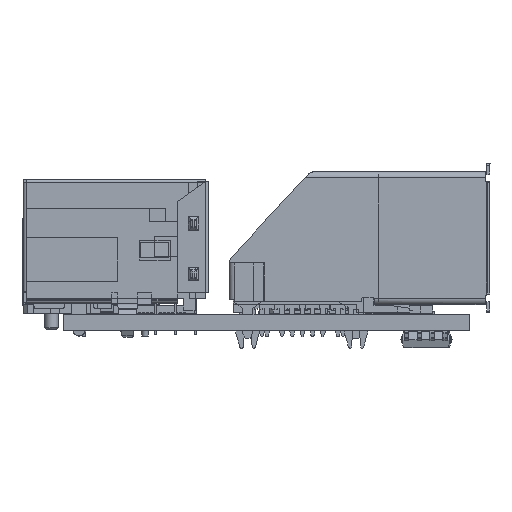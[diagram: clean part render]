
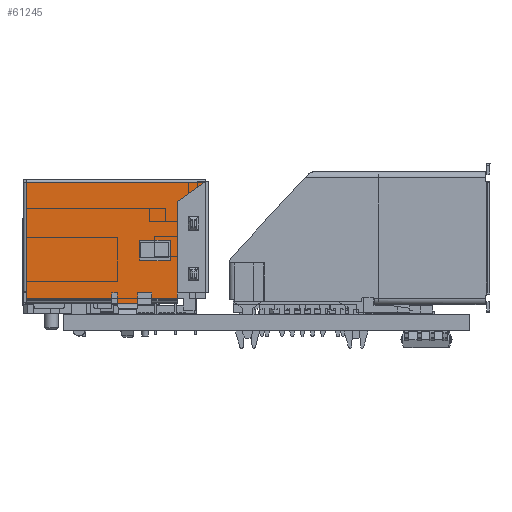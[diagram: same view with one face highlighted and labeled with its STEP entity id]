
A CAD part, left-side view. The second image highlights one B-rep face of the part: STEP entity #61245.
In plain terms, the highlighted planar face has unit normal (-1, 0, 0) as drawn and (0, -1, 0) by its records, which use the part's own axes.
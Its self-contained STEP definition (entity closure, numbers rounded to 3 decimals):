
#3482=FACE_BOUND('',#9944,.T.);
#3483=FACE_BOUND('',#9945,.T.);
#3484=FACE_BOUND('',#9946,.T.);
#6468=FACE_OUTER_BOUND('',#9943,.T.);
#9943=EDGE_LOOP('',(#45773,#45774,#45775,#45776,#45777,#45778,#45779,#45780,
#45781,#45782,#45783,#45784,#45785,#45786,#45787));
#9944=EDGE_LOOP('',(#45788,#45789,#45790,#45791,#45792,#45793));
#9945=EDGE_LOOP('',(#45794,#45795,#45796,#45797));
#9946=EDGE_LOOP('',(#45798,#45799,#45800,#45801));
#14374=LINE('',#92033,#21353);
#14411=LINE('',#92120,#21390);
#14422=LINE('',#92153,#21401);
#14428=LINE('',#92167,#21407);
#14431=LINE('',#92173,#21410);
#14435=LINE('',#92181,#21414);
#14438=LINE('',#92185,#21417);
#14439=LINE('',#92187,#21418);
#14442=LINE('',#92197,#21421);
#14448=LINE('',#92215,#21427);
#14458=LINE('',#92233,#21437);
#14466=LINE('',#92247,#21445);
#14467=LINE('',#92250,#21446);
#14474=LINE('',#92265,#21453);
#14477=LINE('',#92270,#21456);
#14488=LINE('',#92293,#21467);
#14505=LINE('',#92333,#21484);
#14508=LINE('',#92340,#21487);
#14511=LINE('',#92346,#21490);
#14512=LINE('',#92347,#21491);
#14513=LINE('',#92348,#21492);
#14514=LINE('',#92351,#21493);
#14515=LINE('',#92353,#21494);
#14516=LINE('',#92355,#21495);
#14517=LINE('',#92356,#21496);
#14518=LINE('',#92359,#21497);
#14519=LINE('',#92361,#21498);
#14520=LINE('',#92363,#21499);
#14521=LINE('',#92364,#21500);
#21353=VECTOR('',#73220,1.);
#21390=VECTOR('',#73305,1.);
#21401=VECTOR('',#73334,1.);
#21407=VECTOR('',#73350,1.);
#21410=VECTOR('',#73355,1.);
#21414=VECTOR('',#73361,1.);
#21417=VECTOR('',#73366,1.);
#21418=VECTOR('',#73369,1.);
#21421=VECTOR('',#73378,1.);
#21427=VECTOR('',#73394,1.);
#21437=VECTOR('',#73410,1.);
#21445=VECTOR('',#73430,1.);
#21446=VECTOR('',#73433,1.);
#21453=VECTOR('',#73450,1.);
#21456=VECTOR('',#73457,1.);
#21467=VECTOR('',#73476,1.);
#21484=VECTOR('',#73515,1.);
#21487=VECTOR('',#73522,1.);
#21490=VECTOR('',#73531,1.);
#21491=VECTOR('',#73532,1.);
#21492=VECTOR('',#73533,1.);
#21493=VECTOR('',#73534,1.);
#21494=VECTOR('',#73535,1.);
#21495=VECTOR('',#73536,1.);
#21496=VECTOR('',#73537,1.);
#21497=VECTOR('',#73538,1.);
#21498=VECTOR('',#73539,1.);
#21499=VECTOR('',#73540,1.);
#21500=VECTOR('',#73541,1.);
#27872=VERTEX_POINT('',#91772);
#27881=VERTEX_POINT('',#91792);
#27951=VERTEX_POINT('',#92030);
#27952=VERTEX_POINT('',#92032);
#27978=VERTEX_POINT('',#92119);
#27990=VERTEX_POINT('',#92150);
#27991=VERTEX_POINT('',#92152);
#27993=VERTEX_POINT('',#92164);
#27994=VERTEX_POINT('',#92166);
#27996=VERTEX_POINT('',#92172);
#27999=VERTEX_POINT('',#92179);
#28001=VERTEX_POINT('',#92191);
#28003=VERTEX_POINT('',#92195);
#28010=VERTEX_POINT('',#92214);
#28015=VERTEX_POINT('',#92231);
#28016=VERTEX_POINT('',#92249);
#28019=VERTEX_POINT('',#92264);
#28026=VERTEX_POINT('',#92290);
#28027=VERTEX_POINT('',#92292);
#28038=VERTEX_POINT('',#92330);
#28039=VERTEX_POINT('',#92332);
#28042=VERTEX_POINT('',#92349);
#28043=VERTEX_POINT('',#92350);
#28044=VERTEX_POINT('',#92352);
#28045=VERTEX_POINT('',#92354);
#28046=VERTEX_POINT('',#92357);
#28047=VERTEX_POINT('',#92358);
#28048=VERTEX_POINT('',#92360);
#28049=VERTEX_POINT('',#92362);
#34454=EDGE_CURVE('',#27952,#27951,#14374,.T.);
#34498=EDGE_CURVE('',#27951,#27978,#14411,.T.);
#34514=EDGE_CURVE('',#27991,#27990,#14422,.T.);
#34521=EDGE_CURVE('',#27993,#27994,#14428,.T.);
#34524=EDGE_CURVE('',#27996,#27990,#14431,.T.);
#34528=EDGE_CURVE('',#27999,#27996,#14435,.T.);
#34531=EDGE_CURVE('',#27991,#27993,#14438,.T.);
#34532=EDGE_CURVE('',#27994,#27999,#14439,.T.);
#34537=EDGE_CURVE('',#28003,#28001,#14442,.T.);
#34545=EDGE_CURVE('',#28001,#28010,#14448,.T.);
#34555=EDGE_CURVE('',#28003,#28015,#14458,.T.);
#34563=EDGE_CURVE('',#27872,#27881,#14466,.T.);
#34564=EDGE_CURVE('',#28016,#27881,#14467,.T.);
#34571=EDGE_CURVE('',#28019,#27872,#14474,.T.);
#34574=EDGE_CURVE('',#28016,#28010,#14477,.T.);
#34586=EDGE_CURVE('',#28027,#28026,#14488,.T.);
#34608=EDGE_CURVE('',#28039,#28038,#14505,.T.);
#34612=EDGE_CURVE('',#28038,#27952,#14508,.T.);
#34615=EDGE_CURVE('',#28027,#27978,#14511,.T.);
#34616=EDGE_CURVE('',#28026,#28019,#14512,.T.);
#34617=EDGE_CURVE('',#28015,#28039,#14513,.T.);
#34618=EDGE_CURVE('',#28042,#28043,#14514,.T.);
#34619=EDGE_CURVE('',#28044,#28042,#14515,.T.);
#34620=EDGE_CURVE('',#28045,#28044,#14516,.T.);
#34621=EDGE_CURVE('',#28043,#28045,#14517,.T.);
#34622=EDGE_CURVE('',#28046,#28047,#14518,.T.);
#34623=EDGE_CURVE('',#28048,#28046,#14519,.T.);
#34624=EDGE_CURVE('',#28049,#28048,#14520,.T.);
#34625=EDGE_CURVE('',#28047,#28049,#14521,.T.);
#45773=ORIENTED_EDGE('',*,*,#34612,.T.);
#45774=ORIENTED_EDGE('',*,*,#34454,.T.);
#45775=ORIENTED_EDGE('',*,*,#34498,.T.);
#45776=ORIENTED_EDGE('',*,*,#34615,.F.);
#45777=ORIENTED_EDGE('',*,*,#34586,.T.);
#45778=ORIENTED_EDGE('',*,*,#34616,.T.);
#45779=ORIENTED_EDGE('',*,*,#34571,.T.);
#45780=ORIENTED_EDGE('',*,*,#34563,.T.);
#45781=ORIENTED_EDGE('',*,*,#34564,.F.);
#45782=ORIENTED_EDGE('',*,*,#34574,.T.);
#45783=ORIENTED_EDGE('',*,*,#34545,.F.);
#45784=ORIENTED_EDGE('',*,*,#34537,.F.);
#45785=ORIENTED_EDGE('',*,*,#34555,.T.);
#45786=ORIENTED_EDGE('',*,*,#34617,.T.);
#45787=ORIENTED_EDGE('',*,*,#34608,.T.);
#45788=ORIENTED_EDGE('',*,*,#34532,.F.);
#45789=ORIENTED_EDGE('',*,*,#34521,.F.);
#45790=ORIENTED_EDGE('',*,*,#34531,.F.);
#45791=ORIENTED_EDGE('',*,*,#34514,.T.);
#45792=ORIENTED_EDGE('',*,*,#34524,.F.);
#45793=ORIENTED_EDGE('',*,*,#34528,.F.);
#45794=ORIENTED_EDGE('',*,*,#34618,.F.);
#45795=ORIENTED_EDGE('',*,*,#34619,.F.);
#45796=ORIENTED_EDGE('',*,*,#34620,.F.);
#45797=ORIENTED_EDGE('',*,*,#34621,.F.);
#45798=ORIENTED_EDGE('',*,*,#34622,.F.);
#45799=ORIENTED_EDGE('',*,*,#34623,.F.);
#45800=ORIENTED_EDGE('',*,*,#34624,.F.);
#45801=ORIENTED_EDGE('',*,*,#34625,.F.);
#58639=PLANE('',#65299);
#61245=ADVANCED_FACE('',(#6468,#3482,#3483,#3484),#58639,.T.);
#65299=AXIS2_PLACEMENT_3D('',#92345,#73529,#73530);
#73220=DIRECTION('',(0.,0.,1.));
#73305=DIRECTION('',(0.,0.,1.));
#73334=DIRECTION('',(0.,0.,-1.));
#73350=DIRECTION('',(-1.,0.,0.));
#73355=DIRECTION('',(0.,0.,1.));
#73361=DIRECTION('',(1.,0.,0.));
#73366=DIRECTION('',(0.,0.,1.));
#73369=DIRECTION('',(0.,0.,-1.));
#73378=DIRECTION('',(1.,0.,0.));
#73394=DIRECTION('',(0.,0.,-1.));
#73410=DIRECTION('',(0.,0.,-1.));
#73430=DIRECTION('',(-1.,0.,0.));
#73433=DIRECTION('',(0.,0.,1.));
#73450=DIRECTION('',(0.,0.,1.));
#73457=DIRECTION('',(-1.,0.,0.));
#73476=DIRECTION('',(0.,0.,-1.));
#73515=DIRECTION('',(0.,0.,-1.));
#73522=DIRECTION('',(1.,0.,0.));
#73529=DIRECTION('center_axis',(0.,-1.,0.));
#73530=DIRECTION('ref_axis',(-1.,0.,0.));
#73531=DIRECTION('',(1.,0.,0.));
#73532=DIRECTION('',(-1.,0.,0.));
#73533=DIRECTION('',(-1.,0.,0.));
#73534=DIRECTION('',(1.,0.,0.));
#73535=DIRECTION('',(0.,0.,-1.));
#73536=DIRECTION('',(-1.,0.,0.));
#73537=DIRECTION('',(0.,0.,1.));
#73538=DIRECTION('',(-1.,0.,0.));
#73539=DIRECTION('',(0.,0.,1.));
#73540=DIRECTION('',(1.,0.,0.));
#73541=DIRECTION('',(0.,0.,-1.));
#91772=CARTESIAN_POINT('',(-0.675,-6.,4.9));
#91792=CARTESIAN_POINT('',(-2.675,-6.,4.9));
#92030=CARTESIAN_POINT('',(8.315,-6.,3.71));
#92032=CARTESIAN_POINT('',(8.315,-6.,-6.99));
#92033=CARTESIAN_POINT('',(8.315,-6.,4.71));
#92119=CARTESIAN_POINT('',(8.315,-6.,4.59));
#92120=CARTESIAN_POINT('',(8.315,-6.,4.71));
#92150=CARTESIAN_POINT('',(-2.875,-6.,-1.05));
#92152=CARTESIAN_POINT('',(-2.875,-6.,0.45));
#92153=CARTESIAN_POINT('',(-2.875,-6.,0.45));
#92164=CARTESIAN_POINT('',(-2.875,-6.,0.7));
#92166=CARTESIAN_POINT('',(-5.875,-6.,0.7));
#92167=CARTESIAN_POINT('',(-2.875,-6.,0.7));
#92172=CARTESIAN_POINT('',(-2.875,-6.,-1.3));
#92173=CARTESIAN_POINT('',(-2.875,-6.,-1.3));
#92179=CARTESIAN_POINT('',(-5.875,-6.,-1.3));
#92181=CARTESIAN_POINT('',(-5.875,-6.,-1.3));
#92185=CARTESIAN_POINT('',(-2.875,-6.,-1.3));
#92187=CARTESIAN_POINT('',(-5.875,-6.,0.7));
#92191=CARTESIAN_POINT('',(-4.075,-6.,4.54));
#92195=CARTESIAN_POINT('',(-6.575,-6.,4.54));
#92197=CARTESIAN_POINT('',(-6.575,-6.,4.54));
#92214=CARTESIAN_POINT('',(-4.075,-6.,3.9));
#92215=CARTESIAN_POINT('',(-4.075,-6.,3.9));
#92231=CARTESIAN_POINT('',(-6.575,-6.,3.9));
#92233=CARTESIAN_POINT('',(-6.575,-6.,3.9));
#92247=CARTESIAN_POINT('',(-0.675,-6.,4.9));
#92249=CARTESIAN_POINT('',(-2.675,-6.,3.9));
#92250=CARTESIAN_POINT('',(-2.675,-6.,3.9));
#92264=CARTESIAN_POINT('',(-0.675,-6.,3.9));
#92265=CARTESIAN_POINT('',(-0.675,-6.,3.9));
#92270=CARTESIAN_POINT('',(-0.125,-6.,3.9));
#92290=CARTESIAN_POINT('',(-0.125,-6.,3.9));
#92292=CARTESIAN_POINT('',(-0.125,-6.,4.59));
#92293=CARTESIAN_POINT('',(-0.125,-6.,4.9));
#92330=CARTESIAN_POINT('',(-9.375,-6.,-6.99));
#92332=CARTESIAN_POINT('',(-9.375,-6.,3.9));
#92333=CARTESIAN_POINT('',(-9.375,-6.,-6.99));
#92340=CARTESIAN_POINT('',(-9.375,-6.,-6.99));
#92345=CARTESIAN_POINT('Origin',(-9.375,-6.,-6.99));
#92346=CARTESIAN_POINT('',(-9.375,-6.,4.59));
#92347=CARTESIAN_POINT('',(-0.125,-6.,3.9));
#92348=CARTESIAN_POINT('',(-0.125,-6.,3.9));
#92349=CARTESIAN_POINT('',(-8.675,-6.,-3.6));
#92350=CARTESIAN_POINT('',(-7.675,-6.,-3.6));
#92351=CARTESIAN_POINT('',(-9.375,-6.,-3.6));
#92352=CARTESIAN_POINT('',(-8.675,-6.,-2.3));
#92353=CARTESIAN_POINT('',(-8.675,-6.,-6.99));
#92354=CARTESIAN_POINT('',(-7.675,-6.,-2.3));
#92355=CARTESIAN_POINT('',(-9.375,-6.,-2.3));
#92356=CARTESIAN_POINT('',(-7.675,-6.,-6.99));
#92357=CARTESIAN_POINT('',(-7.675,-6.,2.7));
#92358=CARTESIAN_POINT('',(-8.675,-6.,2.7));
#92359=CARTESIAN_POINT('',(-9.375,-6.,2.7));
#92360=CARTESIAN_POINT('',(-7.675,-6.,1.4));
#92361=CARTESIAN_POINT('',(-7.675,-6.,-6.99));
#92362=CARTESIAN_POINT('',(-8.675,-6.,1.4));
#92363=CARTESIAN_POINT('',(-9.375,-6.,1.4));
#92364=CARTESIAN_POINT('',(-8.675,-6.,-6.99));
